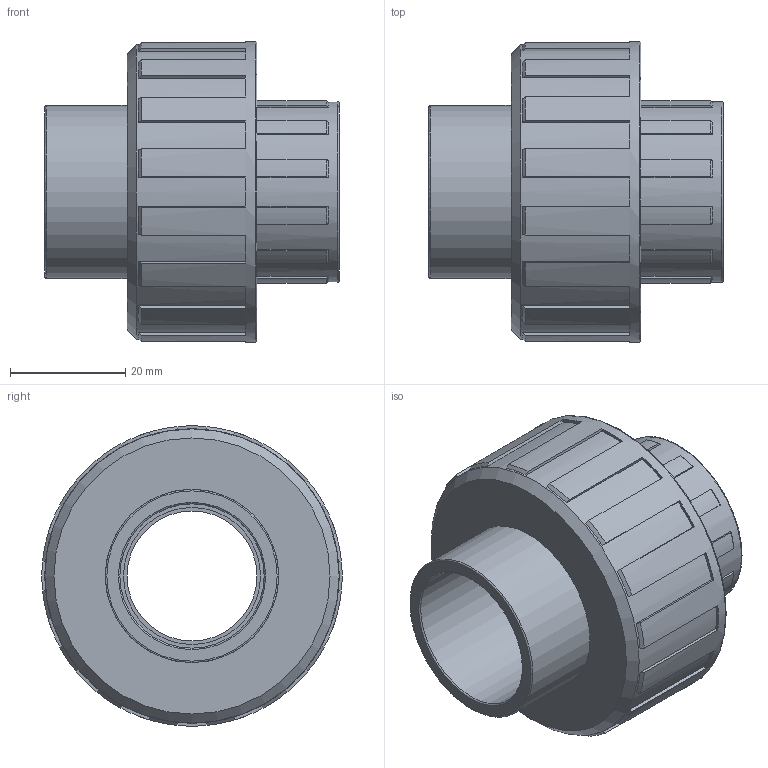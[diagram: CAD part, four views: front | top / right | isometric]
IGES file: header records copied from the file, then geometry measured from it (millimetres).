
Global section: file name: 050800025.ipt; native system: Autodesk Inventor 2015; preprocessor: unknown; author: Кирилл,,11,0; organization: 20171003.032032; date: 20171207.164902; units: millimetre
Bounding box: 51 x 52 x 52 mm (x, y, z)
Volume: 43911.8 mm3; surface area: 13928.5 mm2
Topology: 1 solids, 1 shells, 133 faces, 390 edges, 264 vertices
Faces by surface type: plane 79, cone 29, cylinder 16, revolution 9
Full cylindrical faces by diameter (mm): 30 x1, 31.25 x1, 50.96 x1, 52 x1
